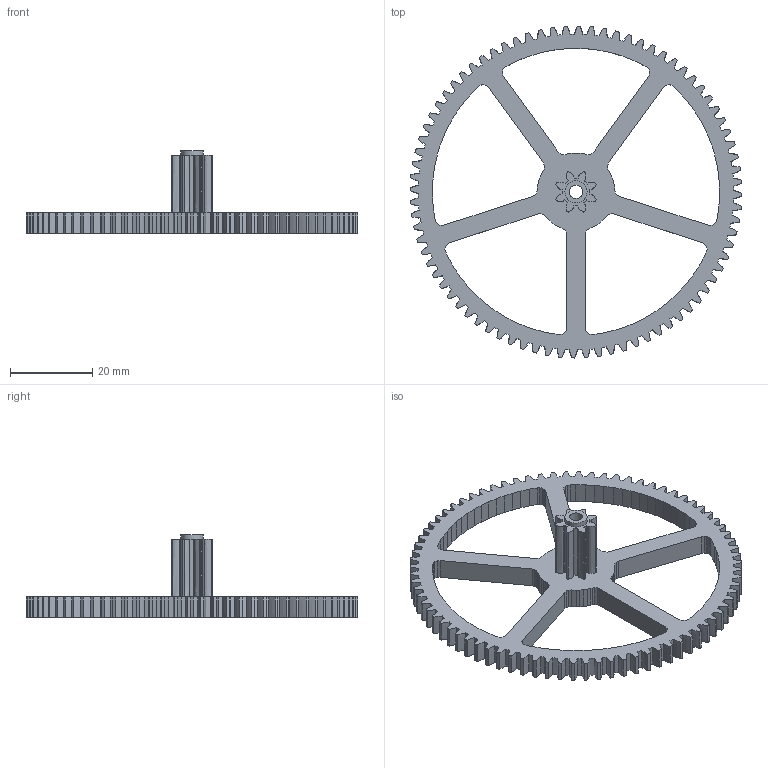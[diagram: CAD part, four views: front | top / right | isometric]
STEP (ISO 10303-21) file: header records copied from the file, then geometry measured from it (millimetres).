
FILE_DESCRIPTION(('Open CASCADE Model'),'2;1');
FILE_NAME('Open CASCADE Shape Model','2026-10-12T22:10:16',('Author'),( 'Open CASCADE'),'Open CASCADE STEP processor 7.9','Open CASCADE 7.9' ,'Unknown');
FILE_SCHEMA(('AUTOMOTIVE_DESIGN { 1 0 10303 214 1 1 1 1 }'));
Length unit declared in the file: millimetre
Products named in the file (1): Open CASCADE STEP translator 7.9 14
Bounding box: 80.91 x 80.91 x 20.2 mm (x, y, z)
Volume: 10172.1 mm3; surface area: 9457.5 mm2
Topology: 1 solids, 1 shells, 567 faces, 1689 edges, 1126 vertices
Faces by surface type: plane 213, cylinder 178, extrusion 176
Full cylindrical faces by diameter (mm): 3.2 x1, 5.4 x1
Entity records: 45722 total; most frequent: CARTESIAN_POINT 12921, DIRECTION 5679, VECTOR 3827, LINE 3651, ORIENTED_EDGE 3378, PCURVE 3378, DEFINITIONAL_REPRESENTATION 3378, EDGE_CURVE 1689
